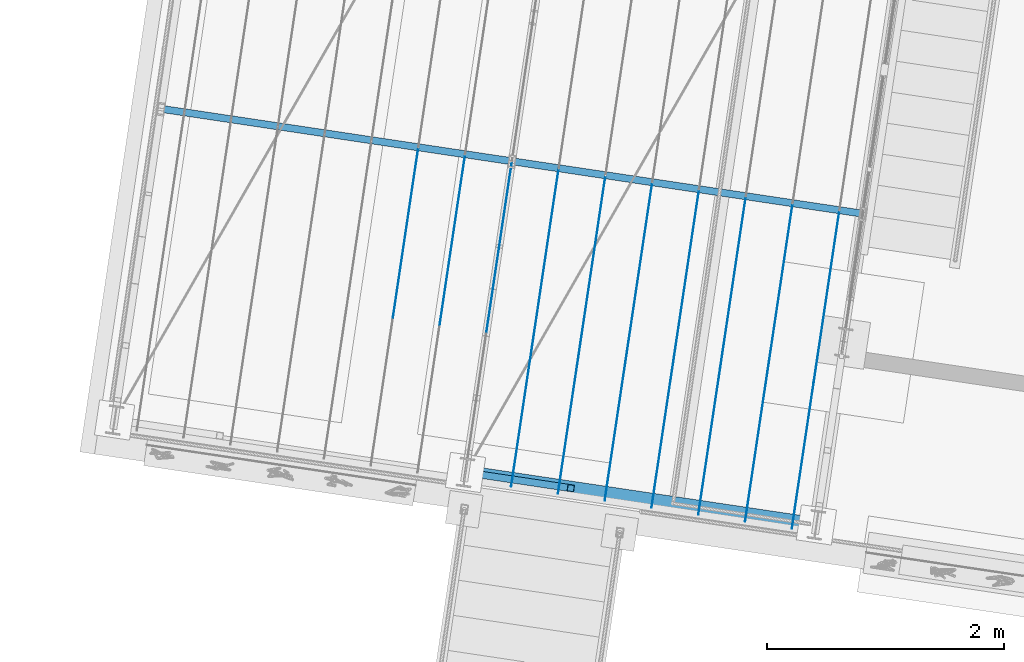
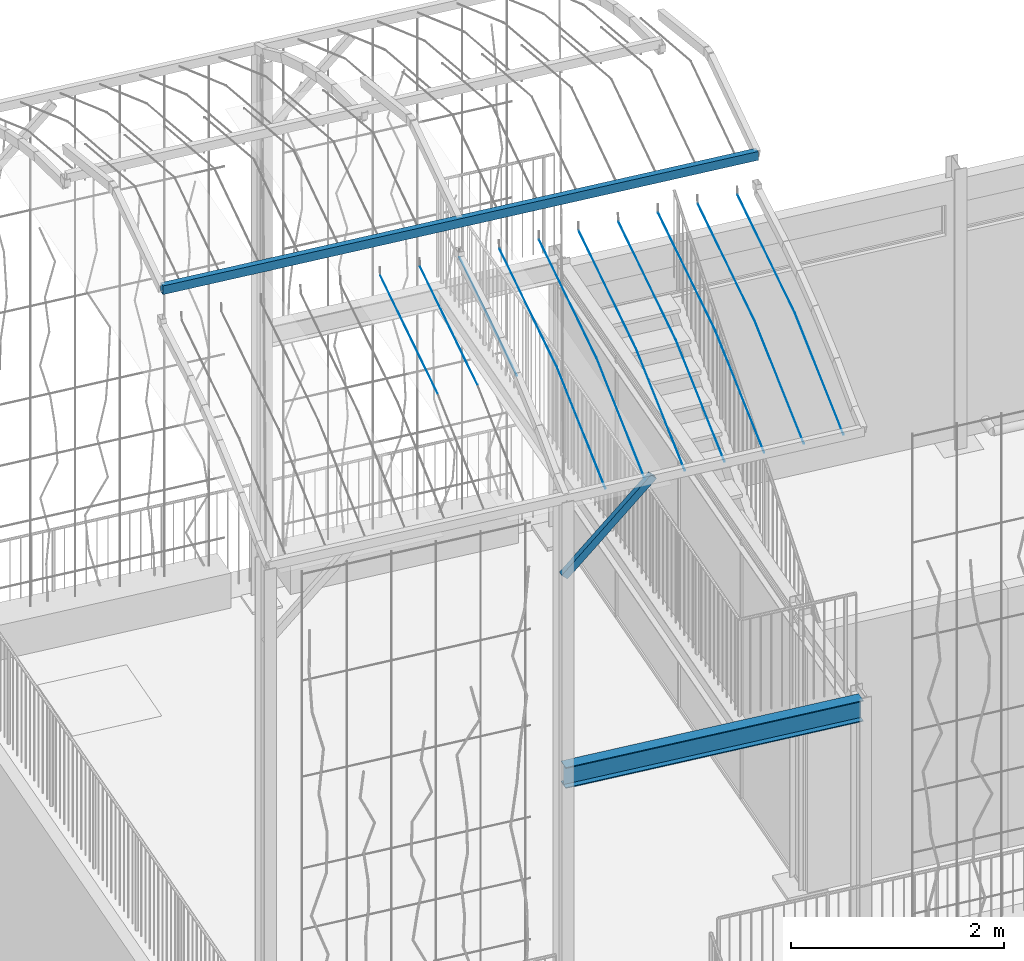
# One storey, part 15 of 142: 18 members, 2 beams, 1 element without a shape of its own.
"""IFC4 building model written with IfcOpenShell, lengths in metres."""

from ifc_helpers import new_model, si_unit, direction, frame, origin_with_axes, place, context, subcontext, project, spatial, hollow_rectangle, circle, i_section, extrude, material, material_profile, profile_set, profile_usage, type_object, element, aggregate, save


model = new_model("IFC4")

# Units and contexts
model_context = context("Model", 3, precision=1e-05, world=origin_with_axes(), true_north=direction((0.0, 1.0)))
body_context = subcontext(model_context, "Body", "Model", "MODEL_VIEW")
ifc_project = project(units=[si_unit("VOLUMEUNIT", "CUBIC_METRE"), si_unit("LENGTHUNIT", "METRE"), si_unit("AREAUNIT", "SQUARE_METRE")], contexts=[model_context])

# Site, building, storey
site_placement = place(None, origin_with_axes())
site = spatial("IfcSite", under=ifc_project, at=site_placement, Name="Lares · Rua das Mercês · artigo 4771")
building_placement = place(site_placement, frame((12.0, 10.2, 13.9), z_axis=(0.0, 0.0, 1.0), x_axis=(0.989015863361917, -0.147809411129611, 0.0)))
building = spatial("IfcBuilding", under=site, at=building_placement, Name="Casa Sobreposta")
storey_placement = place(building_placement, origin_with_axes())
storey = spatial("IfcBuildingStorey", under=building, at=storey_placement, Name="00 · Habitação e estacionamento", Elevation=13.9)

# Assembly, beams, members
assembly_placement = place(storey_placement, origin_with_axes())
assembly = element("IfcElementAssembly", 1, at=assembly_placement, inside=storey, Name="Pérgola · prolongamento da estufa 6 m", ObjectType="PERGOLA_GREENHOUSE_EXTENSION", PredefinedType="USERDEFINED")
ifc_material_1 = material(Name="Aço pintado / Stahl lackiert", Category="steel")
ifc_material_profile_1 = material_profile(ifc_material_1, i_section(OverallWidth=0.12, OverallDepth=0.24, WebThickness=0.0062, FlangeThickness=0.0098))
ifc_profile_set_1 = profile_set([ifc_material_profile_1], Name="IPE240")
ifc_profile_usage_1 = profile_usage(ifc_profile_set_1)
beam_type_1 = type_object("IfcBeamType", Name="IPE240 / steel", PredefinedType="NOTDEFINED", material=ifc_profile_set_1)
beam_1_placement = place(assembly_placement, frame((-3.0, -1.44, 3.02), z_axis=(1.0, 0.0, 0.0), x_axis=(0.0, -1.0, 0.0)))
beam_1 = element("IfcBeam", 2, at=beam_1_placement, type_object=beam_type_1, material=ifc_profile_usage_1, Name="Varanda · viga de bordo", context=body_context, shape_type="SweptSolid", body=[
    extrude(i_section(OverallWidth=0.12, OverallDepth=0.24, WebThickness=0.0062, FlangeThickness=0.0098), origin_with_axes(), (0.0, 0.0, 1.0), 3.0),
])
ifc_material_profile_2 = material_profile(ifc_material_1, hollow_rectangle(XDim=0.06, YDim=0.1, WallThickness=0.004))
ifc_profile_set_2 = profile_set([ifc_material_profile_2], Name="RHS100x60x4")
ifc_profile_usage_2 = profile_usage(ifc_profile_set_2)
beam_type_2 = type_object("IfcBeamType", Name="RHS100x60x4 / steel", PredefinedType="NOTDEFINED", material=ifc_profile_set_2)
beam_2_placement = place(assembly_placement, frame((-6.0, 1.22042020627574, 7.62067689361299), z_axis=(1.0, 0.0, 0.0), x_axis=(0.0, -1.0, 0.0)))
beam_2 = element("IfcBeam", 3, at=beam_2_placement, type_object=beam_type_2, material=ifc_profile_usage_2, Name="Pérgola · terça", context=body_context, shape_type="SweptSolid", body=[
    extrude(hollow_rectangle(XDim=0.06, YDim=0.1, WallThickness=0.004), origin_with_axes(), (0.0, 0.0, 1.0), 6.0),
])
ifc_material_profile_3 = material_profile(ifc_material_1, hollow_rectangle(XDim=0.06, YDim=0.08, WallThickness=0.004))
ifc_profile_set_3 = profile_set([ifc_material_profile_3], Name="RHS80x60x4")
ifc_profile_usage_3 = profile_usage(ifc_profile_set_3)
member_type_1 = type_object("IfcMemberType", Name="RHS80x60x4 / steel", PredefinedType="NOTDEFINED", material=ifc_profile_set_3)
member_1_placement = place(assembly_placement, frame((-3.0, -1.44, 5.3), z_axis=(0.699294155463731, 0.0, 0.714834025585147), x_axis=(0.0, -1.0, 0.0)))
member_1 = element("IfcMember", 4, at=member_1_placement, type_object=member_type_1, material=ifc_profile_usage_3, Name="Pérgola · escora alta", context=body_context, shape_type="SweptSolid", body=[
    extrude(hollow_rectangle(XDim=0.06, YDim=0.08, WallThickness=0.004), origin_with_axes(), (0.0, 0.0, 1.0), 1.28701204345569),
])
ifc_material_2 = material(Name="Aço galvanizado / Stahl verzinkt", Category="steel")
ifc_material_profile_4 = material_profile(ifc_material_2, circle(Radius=0.002))
ifc_profile_set_4 = profile_set([ifc_material_profile_4], Name="D0.004")
ifc_profile_usage_4 = profile_usage(ifc_profile_set_4)
member_type_2 = type_object("IfcMemberType", Name="D0.004 / galvanized", PredefinedType="NOTDEFINED", material=ifc_profile_set_4)
member_2_placement = place(assembly_placement, frame((-3.8, -0.256488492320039, 6.81570306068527), z_axis=(0.0, 0.96535496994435, 0.260940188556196), x_axis=(1.0, 0.0, 0.0)))
member_2 = element("IfcMember", 5, at=member_2_placement, type_object=member_type_2, material=ifc_profile_usage_4, Name="Pérgola · fio para trepadeiras", context=body_context, shape_type="SweptSolid", body=[
    extrude(circle(Radius=0.002), origin_with_axes(), (0.0, 0.0, 1.0), 1.52368621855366),
])
ifc_profile_usage_5 = profile_usage(ifc_profile_set_4)
member_3_placement = place(assembly_placement, frame((-3.4, -0.256488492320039, 6.81570306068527), z_axis=(0.0, 0.96535496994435, 0.260940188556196), x_axis=(1.0, 0.0, 0.0)))
member_3 = element("IfcMember", 6, at=member_3_placement, type_object=member_type_2, material=ifc_profile_usage_5, Name="Pérgola · fio para trepadeiras", context=body_context, shape_type="SweptSolid", body=[
    extrude(circle(Radius=0.002), origin_with_axes(), (0.0, 0.0, 1.0), 1.52368621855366),
])
ifc_profile_usage_6 = profile_usage(ifc_profile_set_4)
member_4_placement = place(assembly_placement, frame((-3.0, -0.256488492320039, 6.81570306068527), z_axis=(0.0, 0.96535496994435, 0.260940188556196), x_axis=(1.0, 0.0, 0.0)))
member_4 = element("IfcMember", 7, at=member_4_placement, type_object=member_type_2, material=ifc_profile_usage_6, Name="Pérgola · fio para trepadeiras", context=body_context, shape_type="SweptSolid", body=[
    extrude(circle(Radius=0.002), origin_with_axes(), (0.0, 0.0, 1.0), 1.52368621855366),
])
ifc_profile_usage_7 = profile_usage(ifc_profile_set_4)
member_5_placement = place(assembly_placement, frame((-2.6, -1.5, 6.23430000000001), z_axis=(0.0, 0.905876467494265, 0.423541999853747), x_axis=(1.0, 0.0, 0.0)))
member_5 = element("IfcMember", 8, at=member_5_placement, type_object=member_type_2, material=ifc_profile_usage_7, Name="Pérgola · fio para trepadeiras", context=body_context, shape_type="SweptSolid", body=[
    extrude(circle(Radius=0.002), origin_with_axes(), (0.0, 0.0, 1.0), 1.37271642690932),
])
ifc_profile_usage_8 = profile_usage(ifc_profile_set_4)
member_6_placement = place(assembly_placement, frame((-2.6, -0.256488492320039, 6.81570306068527), z_axis=(0.0, 0.96535496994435, 0.260940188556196), x_axis=(1.0, 0.0, 0.0)))
member_6 = element("IfcMember", 9, at=member_6_placement, type_object=member_type_2, material=ifc_profile_usage_8, Name="Pérgola · fio para trepadeiras", context=body_context, shape_type="SweptSolid", body=[
    extrude(circle(Radius=0.002), origin_with_axes(), (0.0, 0.0, 1.0), 1.52368621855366),
])
ifc_profile_usage_9 = profile_usage(ifc_profile_set_4)
member_7_placement = place(assembly_placement, frame((-2.2, -1.5, 6.23430000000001), z_axis=(0.0, 0.905876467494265, 0.423541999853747), x_axis=(1.0, 0.0, 0.0)))
member_7 = element("IfcMember", 10, at=member_7_placement, type_object=member_type_2, material=ifc_profile_usage_9, Name="Pérgola · fio para trepadeiras", context=body_context, shape_type="SweptSolid", body=[
    extrude(circle(Radius=0.002), origin_with_axes(), (0.0, 0.0, 1.0), 1.37271642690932),
])
ifc_profile_usage_10 = profile_usage(ifc_profile_set_4)
member_8_placement = place(assembly_placement, frame((-2.2, -0.256488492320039, 6.81570306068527), z_axis=(0.0, 0.96535496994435, 0.260940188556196), x_axis=(1.0, 0.0, 0.0)))
member_8 = element("IfcMember", 11, at=member_8_placement, type_object=member_type_2, material=ifc_profile_usage_10, Name="Pérgola · fio para trepadeiras", context=body_context, shape_type="SweptSolid", body=[
    extrude(circle(Radius=0.002), origin_with_axes(), (0.0, 0.0, 1.0), 1.52368621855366),
])
ifc_profile_usage_11 = profile_usage(ifc_profile_set_4)
member_9_placement = place(assembly_placement, frame((-1.8, -1.5, 6.23430000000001), z_axis=(0.0, 0.905876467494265, 0.423541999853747), x_axis=(1.0, 0.0, 0.0)))
member_9 = element("IfcMember", 12, at=member_9_placement, type_object=member_type_2, material=ifc_profile_usage_11, Name="Pérgola · fio para trepadeiras", context=body_context, shape_type="SweptSolid", body=[
    extrude(circle(Radius=0.002), origin_with_axes(), (0.0, 0.0, 1.0), 1.37271642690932),
])
ifc_profile_usage_12 = profile_usage(ifc_profile_set_4)
member_10_placement = place(assembly_placement, frame((-1.8, -0.256488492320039, 6.81570306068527), z_axis=(0.0, 0.96535496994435, 0.260940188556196), x_axis=(1.0, 0.0, 0.0)))
member_10 = element("IfcMember", 13, at=member_10_placement, type_object=member_type_2, material=ifc_profile_usage_12, Name="Pérgola · fio para trepadeiras", context=body_context, shape_type="SweptSolid", body=[
    extrude(circle(Radius=0.002), origin_with_axes(), (0.0, 0.0, 1.0), 1.52368621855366),
])
ifc_profile_usage_13 = profile_usage(ifc_profile_set_4)
member_11_placement = place(assembly_placement, frame((-1.4, -1.5, 6.23430000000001), z_axis=(0.0, 0.905876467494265, 0.423541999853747), x_axis=(1.0, 0.0, 0.0)))
member_11 = element("IfcMember", 14, at=member_11_placement, type_object=member_type_2, material=ifc_profile_usage_13, Name="Pérgola · fio para trepadeiras", context=body_context, shape_type="SweptSolid", body=[
    extrude(circle(Radius=0.002), origin_with_axes(), (0.0, 0.0, 1.0), 1.37271642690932),
])
ifc_profile_usage_14 = profile_usage(ifc_profile_set_4)
member_12_placement = place(assembly_placement, frame((-1.4, -0.256488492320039, 6.81570306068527), z_axis=(0.0, 0.96535496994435, 0.260940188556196), x_axis=(1.0, 0.0, 0.0)))
member_12 = element("IfcMember", 15, at=member_12_placement, type_object=member_type_2, material=ifc_profile_usage_14, Name="Pérgola · fio para trepadeiras", context=body_context, shape_type="SweptSolid", body=[
    extrude(circle(Radius=0.002), origin_with_axes(), (0.0, 0.0, 1.0), 1.52368621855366),
])
ifc_profile_usage_15 = profile_usage(ifc_profile_set_4)
member_13_placement = place(assembly_placement, frame((-0.999999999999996, -1.5, 6.23430000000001), z_axis=(0.0, 0.905876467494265, 0.423541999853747), x_axis=(1.0, 0.0, 0.0)))
member_13 = element("IfcMember", 16, at=member_13_placement, type_object=member_type_2, material=ifc_profile_usage_15, Name="Pérgola · fio para trepadeiras", context=body_context, shape_type="SweptSolid", body=[
    extrude(circle(Radius=0.002), origin_with_axes(), (0.0, 0.0, 1.0), 1.37271642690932),
])
ifc_profile_usage_16 = profile_usage(ifc_profile_set_4)
member_14_placement = place(assembly_placement, frame((-0.999999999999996, -0.256488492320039, 6.81570306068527), z_axis=(0.0, 0.96535496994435, 0.260940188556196), x_axis=(1.0, 0.0, 0.0)))
member_14 = element("IfcMember", 17, at=member_14_placement, type_object=member_type_2, material=ifc_profile_usage_16, Name="Pérgola · fio para trepadeiras", context=body_context, shape_type="SweptSolid", body=[
    extrude(circle(Radius=0.002), origin_with_axes(), (0.0, 0.0, 1.0), 1.52368621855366),
])
ifc_profile_usage_17 = profile_usage(ifc_profile_set_4)
member_15_placement = place(assembly_placement, frame((-0.599999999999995, -1.5, 6.23430000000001), z_axis=(0.0, 0.905876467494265, 0.423541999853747), x_axis=(1.0, 0.0, 0.0)))
member_15 = element("IfcMember", 18, at=member_15_placement, type_object=member_type_2, material=ifc_profile_usage_17, Name="Pérgola · fio para trepadeiras", context=body_context, shape_type="SweptSolid", body=[
    extrude(circle(Radius=0.002), origin_with_axes(), (0.0, 0.0, 1.0), 1.37271642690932),
])
ifc_profile_usage_18 = profile_usage(ifc_profile_set_4)
member_16_placement = place(assembly_placement, frame((-0.599999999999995, -0.256488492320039, 6.81570306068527), z_axis=(0.0, 0.96535496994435, 0.260940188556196), x_axis=(1.0, 0.0, 0.0)))
member_16 = element("IfcMember", 19, at=member_16_placement, type_object=member_type_2, material=ifc_profile_usage_18, Name="Pérgola · fio para trepadeiras", context=body_context, shape_type="SweptSolid", body=[
    extrude(circle(Radius=0.002), origin_with_axes(), (0.0, 0.0, 1.0), 1.52368621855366),
])
ifc_profile_usage_19 = profile_usage(ifc_profile_set_4)
member_17_placement = place(assembly_placement, frame((-0.199999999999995, -1.5, 6.23430000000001), z_axis=(0.0, 0.905876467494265, 0.423541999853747), x_axis=(1.0, 0.0, 0.0)))
member_17 = element("IfcMember", 20, at=member_17_placement, type_object=member_type_2, material=ifc_profile_usage_19, Name="Pérgola · fio para trepadeiras", context=body_context, shape_type="SweptSolid", body=[
    extrude(circle(Radius=0.002), origin_with_axes(), (0.0, 0.0, 1.0), 1.37271642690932),
])
ifc_profile_usage_20 = profile_usage(ifc_profile_set_4)
member_18_placement = place(assembly_placement, frame((-0.199999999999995, -0.256488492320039, 6.81570306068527), z_axis=(0.0, 0.96535496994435, 0.260940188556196), x_axis=(1.0, 0.0, 0.0)))
member_18 = element("IfcMember", 21, at=member_18_placement, type_object=member_type_2, material=ifc_profile_usage_20, Name="Pérgola · fio para trepadeiras", context=body_context, shape_type="SweptSolid", body=[
    extrude(circle(Radius=0.002), origin_with_axes(), (0.0, 0.0, 1.0), 1.52368621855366),
])
aggregate(assembly, [beam_2, member_1, member_2, member_3, member_4, member_5, member_6, member_7, member_8, member_9, member_10, member_11, member_12, member_13, member_14, member_15, member_16, member_17, member_18, beam_1])

save(model, "model.ifc")
